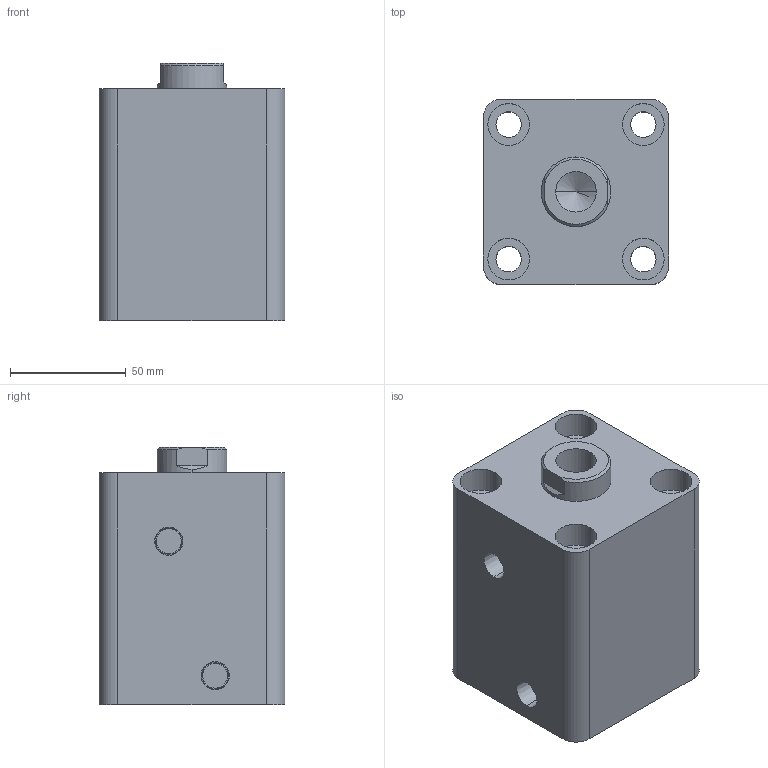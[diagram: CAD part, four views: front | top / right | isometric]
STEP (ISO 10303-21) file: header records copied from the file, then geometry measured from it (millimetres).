
FILE_DESCRIPTION (( 'STEP AP203' ), '1' );
FILE_NAME ('HTB-SD50-40N.STEP', '2019-10-07T07:08:41', ( '微软用户' ), ( '微软中国' ), 'SwSTEP 2.0', 'SolidWorks 2012', '' );
FILE_SCHEMA (( 'CONFIG_CONTROL_DESIGN' ));
Length unit declared in the file: millimetre
Products named in the file (3): HTB-SD50-40N; HTB-SD50-40N活塞杆; HTB-SD50-40掛极
Assembly tree (2 placements, depth 2):
  HTB-SD50-40N
    HTB-SD50-40掛极
    HTB-SD50-40N活塞杆
Bounding box: 80 x 80 x 111 mm (x, y, z)
Volume: 530876.4 mm3; surface area: 89809.9 mm2
Topology: 2 solids, 2 shells, 83 faces, 184 edges, 119 vertices
Faces by surface type: cylinder 42, plane 27, cone 8, torus 6
Entity records: 2655 total; most frequent: DIRECTION 456, CARTESIAN_POINT 417, ORIENTED_EDGE 364, AXIS2_PLACEMENT_3D 194, EDGE_CURVE 182, VERTEX_POINT 119, EDGE_LOOP 107, CIRCLE 106
